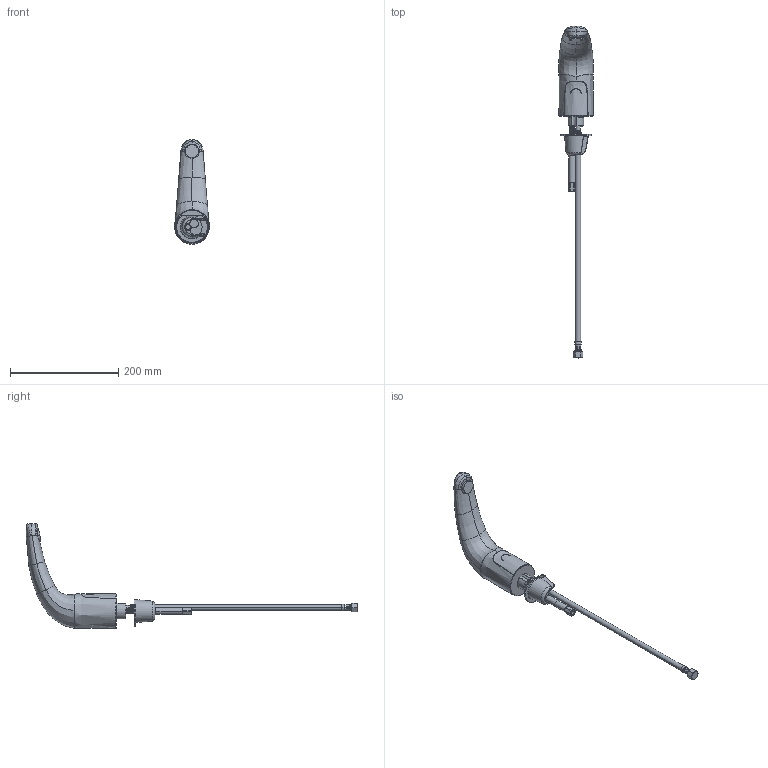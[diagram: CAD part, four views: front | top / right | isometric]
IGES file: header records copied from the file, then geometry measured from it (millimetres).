
Start section:  PTC IGES file: 116-101-21-1_REV030810.igs
Global section: file name: 116-101-21-1_REV030810.igs; native system: Pro/ENGINEER by Parametric Technology Corporation; preprocessor: 2009230; author: sdmitruk; organization: Unknown; date: 20100308.153204; units: inch
Bounding box: 64.56 x 614.28 x 193.38 mm (x, y, z)
Surface area: 96880.1 mm2 (no closed solid volume)
Topology: 0 solids, 35 shells, 460 faces, 1391 edges, 946 vertices
Faces by surface type: revolution 267, bspline 193
